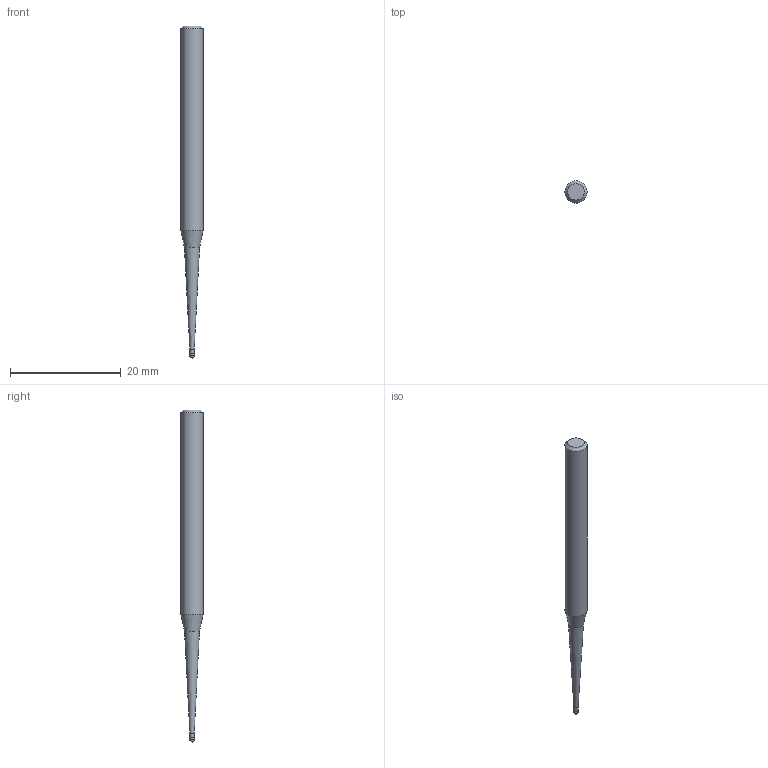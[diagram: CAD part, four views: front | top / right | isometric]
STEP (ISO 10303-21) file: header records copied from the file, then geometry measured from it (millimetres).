
FILE_DESCRIPTION((''),'2;1');
FILE_NAME('C:\Users\nsx150\AppData\Local\Temp\Mastercam 2021\SNAKH10GOD\TEMP.step','2021-10-21T13:32:04',(''),(''),'STEP Write','Mastercam 2021 ... CNC Software, Inc.','');
FILE_SCHEMA(('AUTOMOTIVE_DESIGN'));
Length unit declared in the file: millimetre
Products named in the file (1): None
Bounding box: 4 x 4 x 60 mm (x, y, z)
Volume: 540.5 mm3; surface area: 612.7 mm2
Topology: 2 solids, 2 shells, 10 faces, 16 edges, 9 vertices
Faces by surface type: plane 3, cylinder 3, cone 3, sphere 1
Full cylindrical faces by diameter (mm): 0.785 x1, 0.8 x1, 4 x1
Entity records: 232 total; most frequent: DIRECTION 40, CARTESIAN_POINT 28, AXIS2_PLACEMENT_3D 20, ORIENTED_EDGE 16, EDGE_LOOP 16, STYLED_ITEM 13, ADVANCED_FACE 10, FACE_BOUND 9
